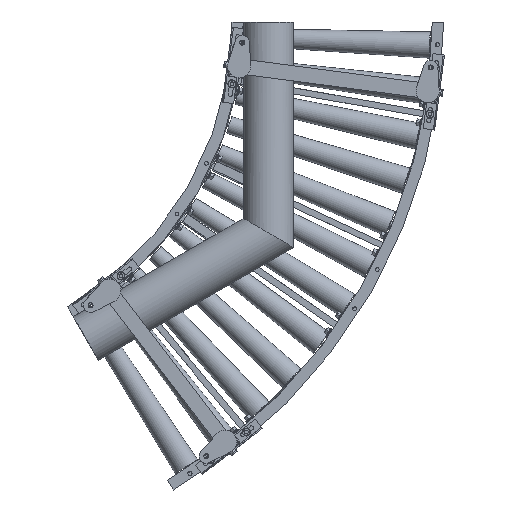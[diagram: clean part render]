
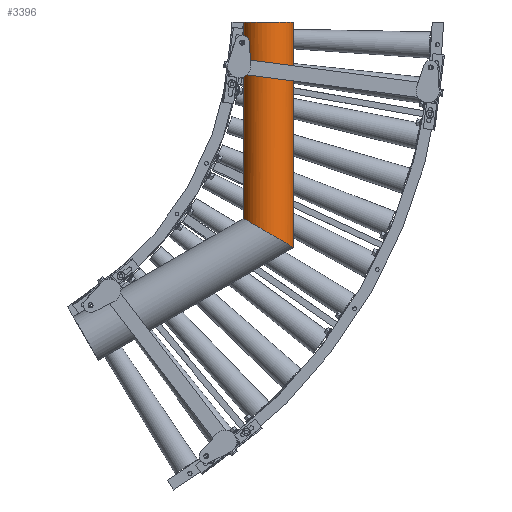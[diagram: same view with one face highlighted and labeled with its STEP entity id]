
A CAD part, front view. The second image highlights one B-rep face of the part: STEP entity #3396.
In plain terms, the highlighted cylindrical face has radius 67.024 mm (diameter 134.048 mm), a partial arc.
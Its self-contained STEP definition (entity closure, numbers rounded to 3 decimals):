
#3396=ADVANCED_FACE('',(#25577),#25576,.T.);
#25576=CYLINDRICAL_SURFACE('',#37346,67.024);
#25577=FACE_OUTER_BOUND('',#37347,.T.);
#37343=CARTESIAN_POINT('',(967.,-156.676,0.));
#37344=DIRECTION('',(0.,0.,1.));
#37345=DIRECTION('',(1.,0.,0.));
#37346=AXIS2_PLACEMENT_3D('',#37343,#37344,#37345);
#37347=EDGE_LOOP('',(#48085,#48086,#48087,#48088));
#48085=ORIENTED_EDGE('',*,*,#53583,.F.);
#48086=ORIENTED_EDGE('',*,*,#53575,.F.);
#48087=ORIENTED_EDGE('',*,*,#53584,.T.);
#48088=ORIENTED_EDGE('',*,*,#53578,.F.);
#53575=EDGE_CURVE('',#89107,#89108,#89109,.T.);
#53578=EDGE_CURVE('',#89127,#89128,#89129,.T.);
#53583=EDGE_CURVE('',#89108,#89127,#89159,.T.);
#53584=EDGE_CURVE('',#89107,#89128,#89165,.T.);
#89107=VERTEX_POINT('',#114190);
#89108=VERTEX_POINT('',#114191);
#89109=CIRCLE('',#114195,67.024);
#89127=VERTEX_POINT('',#114202);
#89128=VERTEX_POINT('',#114203);
#89129=(BOUNDED_CURVE() B_SPLINE_CURVE(2,(#114204,#114205,#114206,#114207,#114208),.UNSPECIFIED.,.F.,.F.) B_SPLINE_CURVE_WITH_KNOTS((3,2,3),(0.147,1.571,2.994),.UNSPECIFIED.) CURVE() GEOMETRIC_REPRESENTATION_ITEM() RATIONAL_B_SPLINE_CURVE((1.,0.757,1.,0.757,1.)) REPRESENTATION_ITEM('') );
#89159=LINE('',#114221,#114222);
#89165=LINE('',#114224,#114225);
#114190=CARTESIAN_POINT('',(900.7,-166.5,0.));
#114191=CARTESIAN_POINT('',(1033.3,-166.5,0.));
#114192=CARTESIAN_POINT('',(967.,-156.676,0.));
#114193=DIRECTION('',(0.,0.,1.));
#114194=DIRECTION('',(-1.,0.,0.));
#114195=AXIS2_PLACEMENT_3D('',#114192,#114193,#114194);
#114202=CARTESIAN_POINT('',(1033.3,-166.5,-596.576));
#114203=CARTESIAN_POINT('',(900.7,-166.5,-520.019));
#114204=CARTESIAN_POINT('',(1033.3,-166.5,-596.576));
#114205=CARTESIAN_POINT('',(1024.825,-223.7,-591.683));
#114206=CARTESIAN_POINT('',(967.,-223.7,-558.298));
#114207=CARTESIAN_POINT('',(909.175,-223.7,-524.913));
#114208=CARTESIAN_POINT('',(900.7,-166.5,-520.019));
#114221=CARTESIAN_POINT('',(1033.3,-166.5,0.));
#114222=VECTOR('',#114223,596.576);
#114223=DIRECTION('',(0.,0.,-1.));
#114224=CARTESIAN_POINT('',(900.7,-166.5,0.));
#114225=VECTOR('',#114226,520.019);
#114226=DIRECTION('',(0.,0.,-1.));
